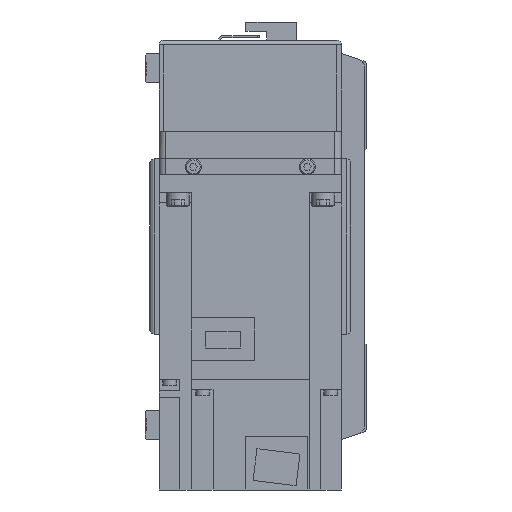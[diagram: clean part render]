
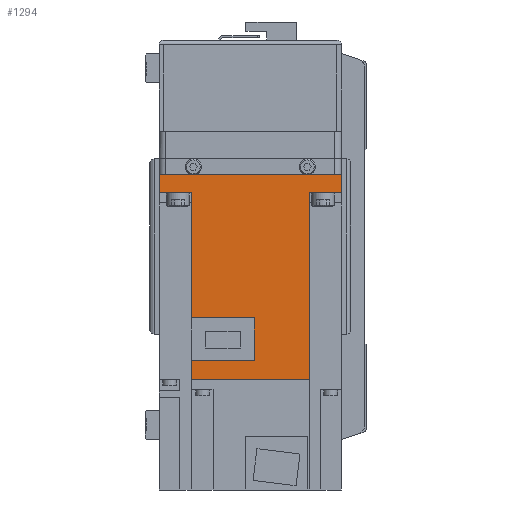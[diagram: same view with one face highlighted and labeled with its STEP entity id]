
A CAD part, left-side view. The second image highlights one B-rep face of the part: STEP entity #1294.
In plain terms, the highlighted planar face has unit normal (-1, 0, 0) as drawn and (1, 0, 0) by its records, which use the part's own axes.
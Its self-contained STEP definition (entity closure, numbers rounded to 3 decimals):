
#1294 = ADVANCED_FACE( '', ( #3486 ), #3487, .F. );
#3486 = FACE_OUTER_BOUND( '', #6856, .T. );
#3487 = PLANE( '', #6857 );
#6856 = EDGE_LOOP( '', ( #10502, #10503, #10504, #10505, #10506, #10507, #10508, #10509, #10510, #10511, #10512, #10513 ) );
#6857 = AXIS2_PLACEMENT_3D( '', #10514, #10515, #10516 );
#10502 = ORIENTED_EDGE( '', *, *, #19446, .F. );
#10503 = ORIENTED_EDGE( '', *, *, #19447, .F. );
#10504 = ORIENTED_EDGE( '', *, *, #19448, .F. );
#10505 = ORIENTED_EDGE( '', *, *, #19449, .T. );
#10506 = ORIENTED_EDGE( '', *, *, #19450, .F. );
#10507 = ORIENTED_EDGE( '', *, *, #19451, .T. );
#10508 = ORIENTED_EDGE( '', *, *, #19452, .T. );
#10509 = ORIENTED_EDGE( '', *, *, #19453, .F. );
#10510 = ORIENTED_EDGE( '', *, *, #19454, .F. );
#10511 = ORIENTED_EDGE( '', *, *, #19455, .F. );
#10512 = ORIENTED_EDGE( '', *, *, #19456, .F. );
#10513 = ORIENTED_EDGE( '', *, *, #19457, .F. );
#10514 = CARTESIAN_POINT( '', ( 40., 89.8, 40. ) );
#10515 = DIRECTION( '', ( -1., 0., 0. ) );
#10516 = DIRECTION( '', ( 0., 0., 1. ) );
#19446 = EDGE_CURVE( '', #23235, #23236, #23237, .T. );
#19447 = EDGE_CURVE( '', #23238, #23235, #23239, .T. );
#19448 = EDGE_CURVE( '', #23240, #23238, #23241, .T. );
#19449 = EDGE_CURVE( '', #23240, #23242, #23243, .T. );
#19450 = EDGE_CURVE( '', #23244, #23242, #23245, .T. );
#19451 = EDGE_CURVE( '', #23244, #23246, #23247, .T. );
#19452 = EDGE_CURVE( '', #23246, #23248, #23249, .T. );
#19453 = EDGE_CURVE( '', #23250, #23248, #23251, .T. );
#19454 = EDGE_CURVE( '', #23252, #23250, #23253, .T. );
#19455 = EDGE_CURVE( '', #23254, #23252, #23255, .T. );
#19456 = EDGE_CURVE( '', #23256, #23254, #23257, .T. );
#19457 = EDGE_CURVE( '', #23236, #23256, #23258, .T. );
#23235 = VERTEX_POINT( '', #28699 );
#23236 = VERTEX_POINT( '', #28700 );
#23237 = LINE( '', #28701, #28702 );
#23238 = VERTEX_POINT( '', #28703 );
#23239 = LINE( '', #28704, #28705 );
#23240 = VERTEX_POINT( '', #28706 );
#23241 = LINE( '', #28707, #28708 );
#23242 = VERTEX_POINT( '', #28709 );
#23243 = LINE( '', #28710, #28711 );
#23244 = VERTEX_POINT( '', #28712 );
#23245 = LINE( '', #28713, #28714 );
#23246 = VERTEX_POINT( '', #28715 );
#23247 = LINE( '', #28716, #28717 );
#23248 = VERTEX_POINT( '', #28718 );
#23249 = LINE( '', #28719, #28720 );
#23250 = VERTEX_POINT( '', #28721 );
#23251 = LINE( '', #28722, #28723 );
#23252 = VERTEX_POINT( '', #28724 );
#23253 = LINE( '', #28725, #28726 );
#23254 = VERTEX_POINT( '', #28727 );
#23255 = LINE( '', #28728, #28729 );
#23256 = VERTEX_POINT( '', #28730 );
#23257 = LINE( '', #28731, #28732 );
#23258 = LINE( '', #28733, #28734 );
#28699 = CARTESIAN_POINT( '', ( 40., 81.4, -25.95 ) );
#28700 = CARTESIAN_POINT( '', ( 40., 81.4, 1.8 ) );
#28701 = CARTESIAN_POINT( '', ( 40., 81.4, -26. ) );
#28702 = VECTOR( '', #36202, 1000. );
#28703 = CARTESIAN_POINT( '', ( 40., 89.8, -25.95 ) );
#28704 = CARTESIAN_POINT( '', ( 40., 158., -25.95 ) );
#28705 = VECTOR( '', #36203, 1000. );
#28706 = CARTESIAN_POINT( '', ( 40., 89.8, 25.95 ) );
#28707 = CARTESIAN_POINT( '', ( 40., 89.8, 40. ) );
#28708 = VECTOR( '', #36204, 1000. );
#28709 = CARTESIAN_POINT( '', ( 40., 8., 25.95 ) );
#28710 = CARTESIAN_POINT( '', ( 40., 158., 25.95 ) );
#28711 = VECTOR( '', #36205, 1000. );
#28712 = CARTESIAN_POINT( '', ( 40., 8., 40. ) );
#28713 = CARTESIAN_POINT( '', ( 40., 8., 40. ) );
#28714 = VECTOR( '', #36206, 1000. );
#28715 = CARTESIAN_POINT( '', ( 40., 0., 40. ) );
#28716 = CARTESIAN_POINT( '', ( 40., 89.8, 40. ) );
#28717 = VECTOR( '', #36207, 1000. );
#28718 = CARTESIAN_POINT( '', ( 40., 0., -40. ) );
#28719 = CARTESIAN_POINT( '', ( 40., 0., 40. ) );
#28720 = VECTOR( '', #36208, 1000. );
#28721 = CARTESIAN_POINT( '', ( 40., 8., -40. ) );
#28722 = CARTESIAN_POINT( '', ( 40., 89.8, -40. ) );
#28723 = VECTOR( '', #36209, 1000. );
#28724 = CARTESIAN_POINT( '', ( 40., 8., -25.95 ) );
#28725 = CARTESIAN_POINT( '', ( 40., 8., 40. ) );
#28726 = VECTOR( '', #36210, 1000. );
#28727 = CARTESIAN_POINT( '', ( 40., 62.8, -25.95 ) );
#28728 = CARTESIAN_POINT( '', ( 40., 158., -25.95 ) );
#28729 = VECTOR( '', #36211, 1000. );
#28730 = CARTESIAN_POINT( '', ( 40., 62.8, 1.8 ) );
#28731 = CARTESIAN_POINT( '', ( 40., 62.8, 1.8 ) );
#28732 = VECTOR( '', #36212, 1000. );
#28733 = CARTESIAN_POINT( '', ( 40., 81.4, 1.8 ) );
#28734 = VECTOR( '', #36213, 1000. );
#36202 = DIRECTION( '', ( 0., 0., 1. ) );
#36203 = DIRECTION( '', ( 0., -1., 0. ) );
#36204 = DIRECTION( '', ( 0., 0., -1. ) );
#36205 = DIRECTION( '', ( 0., -1., 0. ) );
#36206 = DIRECTION( '', ( 0., 0., -1. ) );
#36207 = DIRECTION( '', ( 0., -1., 0. ) );
#36208 = DIRECTION( '', ( 0., 0., -1. ) );
#36209 = DIRECTION( '', ( 0., -1., 0. ) );
#36210 = DIRECTION( '', ( 0., 0., -1. ) );
#36211 = DIRECTION( '', ( 0., -1., 0. ) );
#36212 = DIRECTION( '', ( 0., 0., -1. ) );
#36213 = DIRECTION( '', ( 0., -1., 0. ) );
